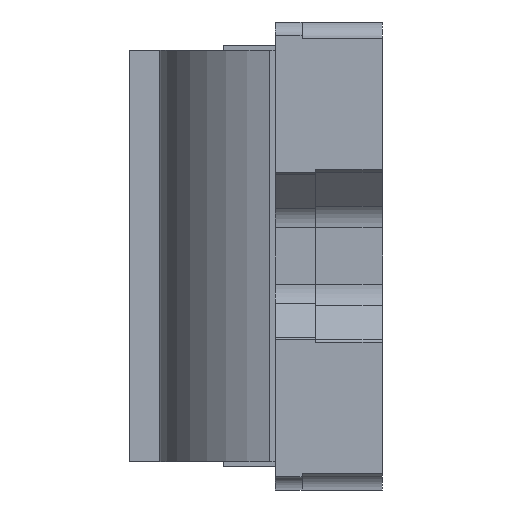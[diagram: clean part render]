
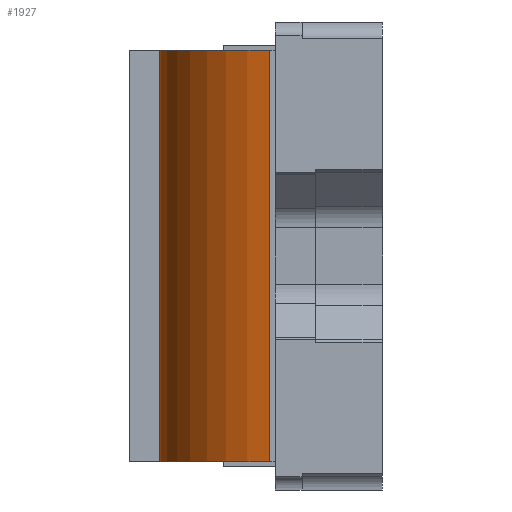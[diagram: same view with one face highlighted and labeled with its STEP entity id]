
A CAD part, left-side view. The second image highlights one B-rep face of the part: STEP entity #1927.
In plain terms, the highlighted cylindrical face has radius 2.177 mm (diameter 4.353 mm), a partial arc.
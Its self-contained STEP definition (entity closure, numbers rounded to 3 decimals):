
#23 = DIRECTION ( 'NONE',  ( 0., 0., 1. ) ) ;
#63 = CARTESIAN_POINT ( 'NONE',  ( -6.088, 3.333, -3.5 ) ) ;
#145 = DIRECTION ( 'NONE',  ( 1., 0., 0. ) ) ;
#146 = DIRECTION ( 'NONE',  ( 0., 0., -1. ) ) ;
#147 = CARTESIAN_POINT ( 'NONE',  ( -6.088, 1.156, 3.075 ) ) ;
#509 = DIRECTION ( 'NONE',  ( 1., 0., 0. ) ) ;
#510 = DIRECTION ( 'NONE',  ( 0., 0., -1. ) ) ;
#511 = CARTESIAN_POINT ( 'NONE',  ( -6.088, 1.156, -3.075 ) ) ;
#674 = DIRECTION ( 'NONE',  ( 1., 0., 0. ) ) ;
#682 = CARTESIAN_POINT ( 'NONE',  ( -6.088, 1.156, -3.5 ) ) ;
#693 = DIRECTION ( 'NONE',  ( 0., 0., 1. ) ) ;
#752 = DIRECTION ( 'NONE',  ( 0., 0., 1. ) ) ;
#764 = CARTESIAN_POINT ( 'NONE',  ( -8.2, 1.683, -3.5 ) ) ;
#971 = CARTESIAN_POINT ( 'NONE',  ( -6.088, 3.333, -3.075 ) ) ;
#996 = CARTESIAN_POINT ( 'NONE',  ( -8.2, 1.683, -3.075 ) ) ;
#1151 = CARTESIAN_POINT ( 'NONE',  ( -8.2, 1.683, 3.075 ) ) ;
#1157 = CARTESIAN_POINT ( 'NONE',  ( -6.088, 3.333, 3.075 ) ) ;
#1316 = EDGE_LOOP ( 'NONE', ( #2920, #2921, #2922, #2923 ) ) ;
#1644 = VERTEX_POINT ( 'NONE', #971 ) ;
#1651 = VERTEX_POINT ( 'NONE', #996 ) ;
#1662 = VERTEX_POINT ( 'NONE', #1157 ) ;
#1692 = VERTEX_POINT ( 'NONE', #1151 ) ;
#1927 = ADVANCED_FACE ( 'NONE', ( #3253 ), #3261, .T. ) ;
#1955 = EDGE_CURVE ( 'NONE', #1651, #1644, #3333, .T. ) ;
#1973 = EDGE_CURVE ( 'NONE', #1644, #1662, #3366, .T. ) ;
#1993 = EDGE_CURVE ( 'NONE', #1692, #1662, #3395, .T. ) ;
#2082 = EDGE_CURVE ( 'NONE', #1651, #1692, #3555, .T. ) ;
#2472 = AXIS2_PLACEMENT_3D ( 'NONE', #682, #693, #674 ) ;
#2531 = AXIS2_PLACEMENT_3D ( 'NONE', #511, #510, #509 ) ;
#2536 = AXIS2_PLACEMENT_3D ( 'NONE', #147, #146, #145 ) ;
#2920 = ORIENTED_EDGE ( 'NONE', *, *, #2082, .T. ) ;
#2921 = ORIENTED_EDGE ( 'NONE', *, *, #1993, .T. ) ;
#2922 = ORIENTED_EDGE ( 'NONE', *, *, #1973, .F. ) ;
#2923 = ORIENTED_EDGE ( 'NONE', *, *, #1955, .F. ) ;
#3253 = FACE_OUTER_BOUND ( 'NONE', #1316, .T. ) ;
#3261 = CYLINDRICAL_SURFACE ( 'NONE', #2472, 2.177 ) ;
#3333 = CIRCLE ( 'NONE', #2531, 2.177 ) ;
#3366 = LINE ( 'NONE', #63, #3368 ) ;
#3368 = VECTOR ( 'NONE', #23, 1000. ) ;
#3395 = CIRCLE ( 'NONE', #2536, 2.177 ) ;
#3555 = LINE ( 'NONE', #764, #3565 ) ;
#3565 = VECTOR ( 'NONE', #752, 1000. ) ;
